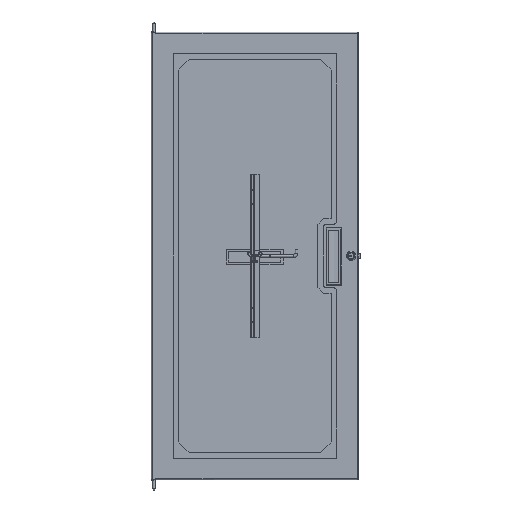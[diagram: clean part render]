
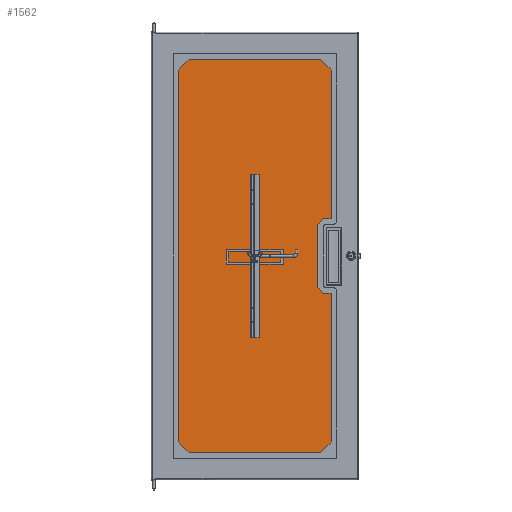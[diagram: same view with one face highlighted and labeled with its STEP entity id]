
A CAD part, front view. The second image highlights one B-rep face of the part: STEP entity #1562.
In plain terms, the highlighted planar face has unit normal (0, -1, 0).
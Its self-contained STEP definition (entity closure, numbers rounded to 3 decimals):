
#1562 = ADVANCED_FACE( '', ( #2291 ), #2292, .T. );
#2291 = FACE_OUTER_BOUND( '', #3233, .T. );
#2292 = PLANE( '', #3234 );
#3233 = EDGE_LOOP( '', ( #5450, #5451, #5452, #5453, #5454, #5455, #5456, #5457, #5458, #5459, #5460, #5461 ) );
#3234 = AXIS2_PLACEMENT_3D( '', #5462, #5463, #5464 );
#5450 = ORIENTED_EDGE( '', *, *, #6347, .T. );
#5451 = ORIENTED_EDGE( '', *, *, #6351, .T. );
#5452 = ORIENTED_EDGE( '', *, *, #6354, .T. );
#5453 = ORIENTED_EDGE( '', *, *, #6355, .T. );
#5454 = ORIENTED_EDGE( '', *, *, #6356, .T. );
#5455 = ORIENTED_EDGE( '', *, *, #6357, .T. );
#5456 = ORIENTED_EDGE( '', *, *, #6358, .T. );
#5457 = ORIENTED_EDGE( '', *, *, #6359, .T. );
#5458 = ORIENTED_EDGE( '', *, *, #6360, .T. );
#5459 = ORIENTED_EDGE( '', *, *, #6361, .T. );
#5460 = ORIENTED_EDGE( '', *, *, #6362, .T. );
#5461 = ORIENTED_EDGE( '', *, *, #6363, .T. );
#5462 = CARTESIAN_POINT( '', ( 187.325, 0., -81.756 ) );
#5463 = DIRECTION( '', ( 0., -1., 0. ) );
#5464 = DIRECTION( '', ( 0., 0., -1. ) );
#6347 = EDGE_CURVE( '', #7496, #7497, #7498, .T. );
#6351 = EDGE_CURVE( '', #7497, #7504, #7505, .T. );
#6354 = EDGE_CURVE( '', #7504, #7509, #7510, .T. );
#6355 = EDGE_CURVE( '', #7509, #7511, #7512, .T. );
#6356 = EDGE_CURVE( '', #7511, #7513, #7514, .T. );
#6357 = EDGE_CURVE( '', #7513, #7515, #7516, .T. );
#6358 = EDGE_CURVE( '', #7515, #7517, #7518, .T. );
#6359 = EDGE_CURVE( '', #7517, #7519, #7520, .T. );
#6360 = EDGE_CURVE( '', #7519, #7521, #7522, .T. );
#6361 = EDGE_CURVE( '', #7521, #7523, #7524, .T. );
#6362 = EDGE_CURVE( '', #7523, #7525, #7526, .T. );
#6363 = EDGE_CURVE( '', #7525, #7496, #7527, .T. );
#7496 = VERTEX_POINT( '', #9300 );
#7497 = VERTEX_POINT( '', #9301 );
#7498 = LINE( '', #9302, #9303 );
#7504 = VERTEX_POINT( '', #9312 );
#7505 = LINE( '', #9313, #9314 );
#7509 = VERTEX_POINT( '', #9320 );
#7510 = LINE( '', #9321, #9322 );
#7511 = VERTEX_POINT( '', #9323 );
#7512 = CIRCLE( '', #9324, 6.35 );
#7513 = VERTEX_POINT( '', #9325 );
#7514 = LINE( '', #9326, #9327 );
#7515 = VERTEX_POINT( '', #9328 );
#7516 = CIRCLE( '', #9329, 6.35 );
#7517 = VERTEX_POINT( '', #9330 );
#7518 = LINE( '', #9331, #9332 );
#7519 = VERTEX_POINT( '', #9333 );
#7520 = CIRCLE( '', #9334, 6.35 );
#7521 = VERTEX_POINT( '', #9335 );
#7522 = LINE( '', #9336, #9337 );
#7523 = VERTEX_POINT( '', #9338 );
#7524 = CIRCLE( '', #9339, 6.35 );
#7525 = VERTEX_POINT( '', #9340 );
#7526 = LINE( '', #9341, #9342 );
#7527 = LINE( '', #9343, #9344 );
#9300 = CARTESIAN_POINT( '', ( -193.675, 0., 478.638 ) );
#9301 = CARTESIAN_POINT( '', ( -193.675, 0., -478.638 ) );
#9302 = CARTESIAN_POINT( '', ( -193.675, 0., 478.638 ) );
#9303 = VECTOR( '', #10543, 1000. );
#9312 = CARTESIAN_POINT( '', ( 193.675, 0., -478.638 ) );
#9313 = CARTESIAN_POINT( '', ( -193.675, 0., -478.638 ) );
#9314 = VECTOR( '', #10547, 1000. );
#9320 = CARTESIAN_POINT( '', ( 193.675, 0., -81.756 ) );
#9321 = CARTESIAN_POINT( '', ( 193.675, 0., -478.638 ) );
#9322 = VECTOR( '', #10550, 1000. );
#9323 = CARTESIAN_POINT( '', ( 187.325, 0., -75.406 ) );
#9324 = AXIS2_PLACEMENT_3D( '', #10551, #10552, #10553 );
#9325 = CARTESIAN_POINT( '', ( 169.863, 0., -75.406 ) );
#9326 = CARTESIAN_POINT( '', ( 187.325, 0., -75.406 ) );
#9327 = VECTOR( '', #10554, 1000. );
#9328 = CARTESIAN_POINT( '', ( 163.513, 0., -69.056 ) );
#9329 = AXIS2_PLACEMENT_3D( '', #10555, #10556, #10557 );
#9330 = CARTESIAN_POINT( '', ( 163.513, 0., 69.056 ) );
#9331 = CARTESIAN_POINT( '', ( 163.513, 0., 69.056 ) );
#9332 = VECTOR( '', #10558, 1000. );
#9333 = CARTESIAN_POINT( '', ( 169.863, 0., 75.406 ) );
#9334 = AXIS2_PLACEMENT_3D( '', #10559, #10560, #10561 );
#9335 = CARTESIAN_POINT( '', ( 187.325, 0., 75.406 ) );
#9336 = CARTESIAN_POINT( '', ( 187.325, 0., 75.406 ) );
#9337 = VECTOR( '', #10562, 1000. );
#9338 = CARTESIAN_POINT( '', ( 193.675, 0., 81.756 ) );
#9339 = AXIS2_PLACEMENT_3D( '', #10563, #10564, #10565 );
#9340 = CARTESIAN_POINT( '', ( 193.675, 0., 478.638 ) );
#9341 = CARTESIAN_POINT( '', ( 193.675, 0., 81.756 ) );
#9342 = VECTOR( '', #10566, 1000. );
#9343 = CARTESIAN_POINT( '', ( 193.675, 0., 478.638 ) );
#9344 = VECTOR( '', #10567, 1000. );
#10543 = DIRECTION( '', ( 0., 0., -1. ) );
#10547 = DIRECTION( '', ( 1., 0., 0. ) );
#10550 = DIRECTION( '', ( 0., 0., 1. ) );
#10551 = CARTESIAN_POINT( '', ( 187.325, 0., -81.756 ) );
#10552 = DIRECTION( '', ( 0., -1., 0. ) );
#10553 = DIRECTION( '', ( -1., 0., 0. ) );
#10554 = DIRECTION( '', ( -1., 0., 0. ) );
#10555 = CARTESIAN_POINT( '', ( 169.863, 0., -69.056 ) );
#10556 = DIRECTION( '', ( 0., 1., 0. ) );
#10557 = DIRECTION( '', ( 1., 0., 0. ) );
#10558 = DIRECTION( '', ( 0., 0., 1. ) );
#10559 = CARTESIAN_POINT( '', ( 169.863, 0., 69.056 ) );
#10560 = DIRECTION( '', ( 0., 1., 0. ) );
#10561 = DIRECTION( '', ( 1., 0., 0. ) );
#10562 = DIRECTION( '', ( 1., 0., 0. ) );
#10563 = CARTESIAN_POINT( '', ( 187.325, 0., 81.756 ) );
#10564 = DIRECTION( '', ( 0., -1., 0. ) );
#10565 = DIRECTION( '', ( -1., 0., 0. ) );
#10566 = DIRECTION( '', ( 0., 0., 1. ) );
#10567 = DIRECTION( '', ( -1., 0., 0. ) );
